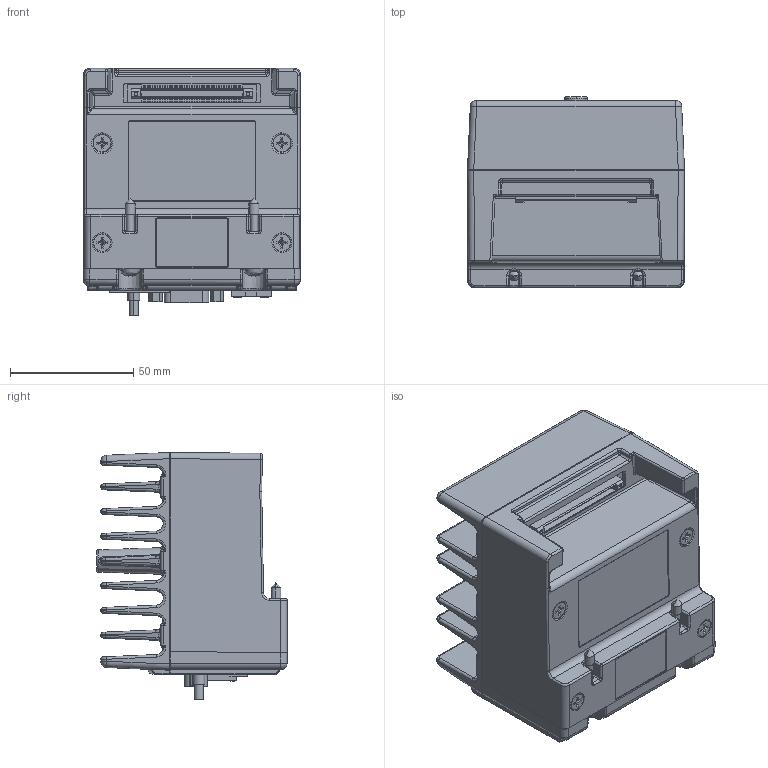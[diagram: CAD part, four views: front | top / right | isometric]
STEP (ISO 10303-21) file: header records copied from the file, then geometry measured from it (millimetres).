
FILE_DESCRIPTION((''),'2;1');
FILE_NAME('CU_CRIO_CONT_901X','2007-08-02T',('jpearson'),(''),'PRO/ENGINEER BY PARAMETRIC TECHNOLOGY CORPORATION, 2006080','PRO/ENGINEER BY PARAMETRIC TECHNOLOGY CORPORATION, 2006080','');
FILE_SCHEMA(('CONFIG_CONTROL_DESIGN'));
Products named in the file (1): CU_CRIO_CONT_901X
Bounding box: 88.11 x 77.32 x 100.33 mm (x, y, z)
Volume: 170468.4 mm3; surface area: 128849.9 mm2
Topology: 2 solids, 2 shells, 3077 faces, 7769 edges, 4719 vertices
Faces by surface type: plane 1496, cylinder 810, bspline 503, cone 106, torus 90, sphere 72
Entity records: 121093 total; most frequent: CARTESIAN_POINT 50830, ORIENTED_EDGE 15322, DIRECTION 13345, EDGE_CURVE 7661, VERTEX_POINT 4833, VECTOR 4727, LINE 4727, AXIS2_PLACEMENT_3D 4309
